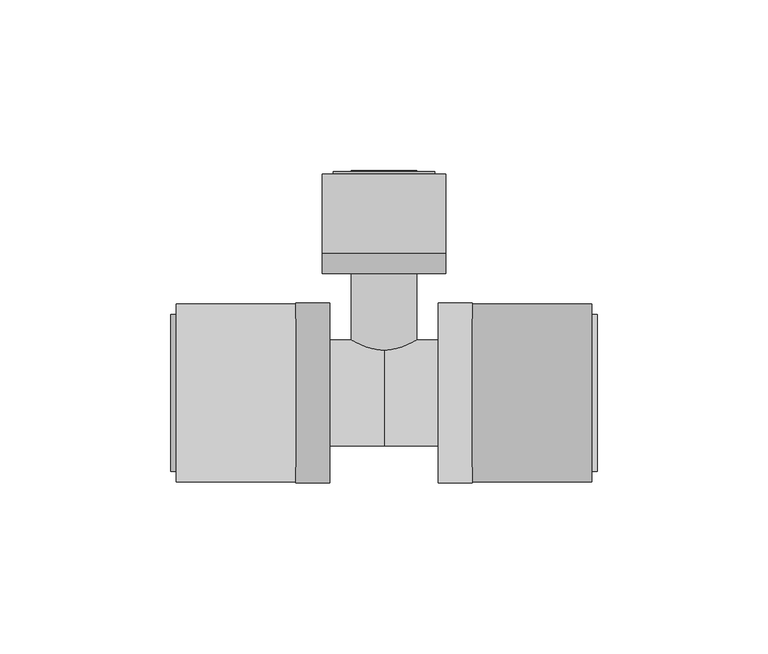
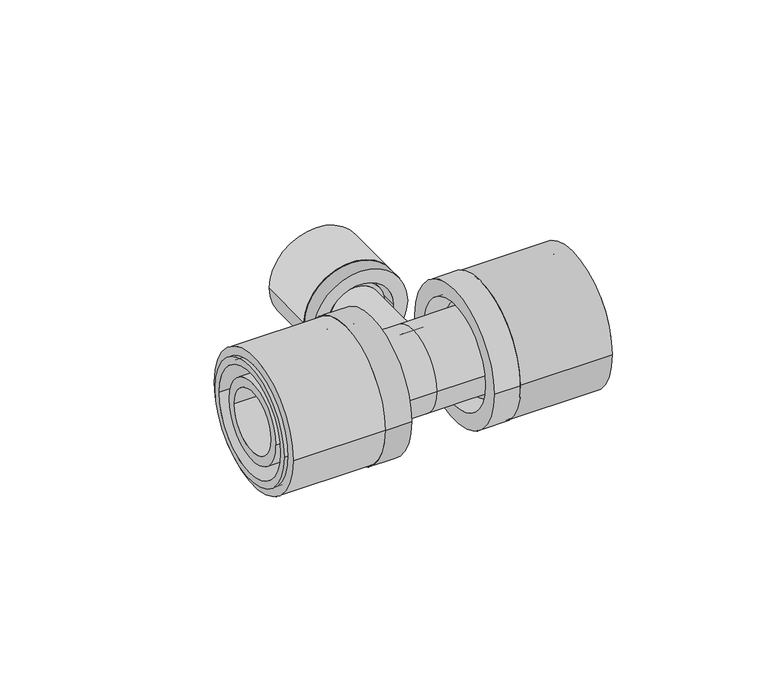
"""IFC4 building model written with IfcOpenShell, lengths in millimetres: pipe fitting geometry, FASTLOC_T-piece_LX : FSL T-Piece LX CZ."""

from ifc_helpers import new_model, si_unit, point, frame, origin, origin_2d, place, context, project, spatial, polyline, circle_curve, trimmed, segment, composite_curve, outline, extrude, source, transform, mapped, element, save
from ifc_brep_helpers import plane_surface, cylinder_surface, revolved_surface, advanced_brep


def pipe_fitting_15165f03(model_context):
    return source(origin(), model_context, "Body", "SolidModel", [
        extrude(outline(composite_curve([segment(trimmed(circle_curve(origin_2d(), 26.0), [point((-26.0, 0.0))], [point((26.0, 0.0))], False, "CARTESIAN"), True, "CONTINUOUS"), segment(trimmed(circle_curve(origin_2d(), 26.0), [point((26.0, 0.0))], [point((-26.0, 0.0))], False, "CARTESIAN"), True, "CONTINUOUS")], self_intersect=False), holes=[composite_curve([segment(trimmed(circle_curve(origin_2d(), 21.25), [point((-21.25, 0.0))], [point((21.25, 0.0))], True, "CARTESIAN"), True, "CONTINUOUS"), segment(trimmed(circle_curve(origin_2d(), 21.25), [point((21.25, 0.0))], [point((-21.25, 0.0))], True, "CARTESIAN"), True, "CONTINUOUS")], self_intersect=False)]), frame((25.8, 0.0, 0.0), z_axis=(1.0, 0.0, 0.0), x_axis=(0.0, 1.0, 0.0)), (0.0, 0.0, 1.0), 35.0),
        advanced_brep(
        [(25.8, 26.3, 0.0), (25.8, -26.3, 0.0), (15.8, -26.3, 0.0), (15.8, 26.3, 0.0), (62.3, 22.9, 0.0), (62.3, -22.9, 0.0), (25.8, -22.9, 0.0), (25.8, 22.9, 0.0), (15.8, 20.2, 0.0), (15.8, -20.2, 0.0), (62.3, -20.2, 0.0), (62.3, 20.2, 0.0)],
        [
            (0, 1, circle_curve(frame((25.8, 0.0, 0.0), z_axis=(-1.0, 0.0, 0.0), x_axis=(0.0, -1.0, 0.0)), 26.3)),
            (1, 2),
            (2, 3, circle_curve(frame((15.8, 0.0, 0.0), z_axis=(1.0, 0.0, 0.0), x_axis=(0.0, -1.0, 0.0)), 26.3)),
            (3, 0),
            (4, 5, circle_curve(frame((62.3, 0.0, 0.0), z_axis=(-1.0, 0.0, 0.0), x_axis=(0.0, -1.0, 0.0)), 22.9)),
            (5, 6),
            (6, 7, circle_curve(frame((25.8, 0.0, 0.0), z_axis=(1.0, 0.0, 0.0), x_axis=(0.0, -1.0, 0.0)), 22.9)),
            (7, 4),
            (8, 9, circle_curve(frame((15.8, 0.0, 0.0), z_axis=(-1.0, 0.0, 0.0), x_axis=(0.0, -1.0, 0.0)), 20.2)),
            (9, 10),
            (10, 11, circle_curve(frame((62.3, 0.0, 0.0), z_axis=(1.0, 0.0, 0.0), x_axis=(0.0, -1.0, 0.0)), 20.2)),
            (11, 8),
            (1, 0, circle_curve(frame((25.8, 0.0, 0.0), z_axis=(-1.0, 0.0, 0.0), x_axis=(0.0, 1.0, 0.0)), 26.3)),
            (3, 2, circle_curve(frame((15.8, 0.0, 0.0), z_axis=(1.0, 0.0, 0.0), x_axis=(0.0, 1.0, 0.0)), 26.3)),
            (6, 7, circle_curve(frame((25.8, 0.0, 0.0), z_axis=(-1.0, 0.0, 0.0), x_axis=(0.0, 1.0, 0.0)), 22.9)),
            (5, 4, circle_curve(frame((62.3, 0.0, 0.0), z_axis=(-1.0, 0.0, 0.0), x_axis=(0.0, 1.0, 0.0)), 22.9)),
            (10, 11, circle_curve(frame((62.3, 0.0, 0.0), z_axis=(-1.0, 0.0, 0.0), x_axis=(0.0, 1.0, 0.0)), 20.2)),
            (9, 8, circle_curve(frame((15.8, 0.0, 0.0), z_axis=(-1.0, 0.0, 0.0), x_axis=(0.0, 1.0, 0.0)), 20.2)),
        ],
        [
            cylinder_surface(frame((15.8, 0.0, 0.0), z_axis=(1.0, 0.0, 0.0), x_axis=(0.0, -1.0, 0.0)), 26.3),
            cylinder_surface(frame((15.8, 0.0, 0.0), z_axis=(1.0, 0.0, 0.0), x_axis=(0.0, -1.0, 0.0)), 22.9),
            revolved_surface(polyline([(62.3, -20.2, 0.0), (15.8, -20.2, 0.0)]), (15.8, 0.0, 0.0), (1.0, 0.0, 0.0)),
            cylinder_surface(frame((15.8, 0.0, 0.0), z_axis=(1.0, 0.0, 0.0), x_axis=(0.0, 1.0, 0.0)), 26.3),
            plane_surface(frame((25.8, 0.0, 0.0), z_axis=(1.0, 0.0, 0.0), x_axis=(0.0, 1.0, 0.0))),
            cylinder_surface(frame((15.8, 0.0, 0.0), z_axis=(1.0, 0.0, 0.0), x_axis=(0.0, 1.0, 0.0)), 22.9),
            plane_surface(frame((62.3, 0.0, 0.0), z_axis=(1.0, 0.0, 0.0), x_axis=(0.0, 1.0, 0.0))),
            revolved_surface(polyline([(62.3, 20.2, 0.0), (15.8, 20.2, 0.0)]), (15.8, 0.0, 0.0), (1.0, 0.0, 0.0)),
            plane_surface(frame((15.8, 0.0, 0.0), z_axis=(-1.0, 0.0, 0.0), x_axis=(0.0, 1.0, 0.0))),
        ],
        [
            (0, [[1, 2, 3, 4]]),
            (1, [[5, 6, 7, 8]]),
            (2, [[9, 10, 11, 12]]),
            (3, [[13, -4, 14, -2]]),
            (4, [[-13, -1], [15, -7]]),
            (5, [[16, -8, -15, -6]]),
            (6, [[-16, -5], [17, -11]]),
            (7, [[18, -12, -17, -10]]),
            (8, [[-14, -3], [-18, -9]]),
        ],
    ),
        extrude(outline(composite_curve([segment(trimmed(circle_curve(origin_2d(), 26.0), [point((26.0, 0.0))], [point((-26.0, 0.0))], False, "CARTESIAN"), True, "CONTINUOUS"), segment(trimmed(circle_curve(origin_2d(), 26.0), [point((-26.0, 0.0))], [point((26.0, 0.0))], False, "CARTESIAN"), True, "CONTINUOUS")], self_intersect=False), holes=[composite_curve([segment(trimmed(circle_curve(origin_2d(), 21.25), [point((21.25, 0.0))], [point((-21.25, 0.0))], True, "CARTESIAN"), True, "CONTINUOUS"), segment(trimmed(circle_curve(origin_2d(), 21.25), [point((-21.25, 0.0))], [point((21.25, 0.0))], True, "CARTESIAN"), True, "CONTINUOUS")], self_intersect=False)]), frame((-60.8, 0.0, 0.0), z_axis=(1.0, 0.0, 0.0), x_axis=(0.0, 1.0, 0.0)), (0.0, 0.0, 1.0), 35.0),
        advanced_brep(
        [(-25.8, -26.3, 0.0), (-25.8, 26.3, 0.0), (-15.8, 26.3, 0.0), (-15.8, -26.3, 0.0), (-62.3, -22.9, 0.0), (-62.3, 22.9, 0.0), (-25.8, 22.9, 0.0), (-25.8, -22.9, 0.0), (-15.8, -20.2, 0.0), (-15.8, 20.2, 0.0), (-62.3, 20.2, 0.0), (-62.3, -20.2, 0.0)],
        [
            (0, 1, circle_curve(frame((-25.8, 0.0, 0.0), z_axis=(1.0, 0.0, 0.0), x_axis=(0.0, 1.0, 0.0)), 26.3)),
            (1, 2),
            (2, 3, circle_curve(frame((-15.8, 0.0, 0.0), z_axis=(-1.0, 0.0, 0.0), x_axis=(0.0, 1.0, 0.0)), 26.3)),
            (3, 0),
            (4, 5, circle_curve(frame((-62.3, 0.0, 0.0), z_axis=(1.0, 0.0, 0.0), x_axis=(0.0, 1.0, 0.0)), 22.9)),
            (5, 6),
            (6, 7, circle_curve(frame((-25.8, 0.0, 0.0), z_axis=(-1.0, 0.0, 0.0), x_axis=(0.0, 1.0, 0.0)), 22.9)),
            (7, 4),
            (8, 9, circle_curve(frame((-15.8, 0.0, 0.0), z_axis=(1.0, 0.0, 0.0), x_axis=(0.0, 1.0, 0.0)), 20.2)),
            (9, 10),
            (10, 11, circle_curve(frame((-62.3, 0.0, 0.0), z_axis=(-1.0, 0.0, 0.0), x_axis=(0.0, 1.0, 0.0)), 20.2)),
            (11, 8),
            (1, 0, circle_curve(frame((-25.8, 0.0, 0.0), z_axis=(1.0, 0.0, 0.0), x_axis=(0.0, -1.0, 0.0)), 26.3)),
            (3, 2, circle_curve(frame((-15.8, 0.0, 0.0), z_axis=(-1.0, 0.0, 0.0), x_axis=(0.0, -1.0, 0.0)), 26.3)),
            (6, 7, circle_curve(frame((-25.8, 0.0, 0.0), z_axis=(1.0, 0.0, 0.0), x_axis=(0.0, -1.0, 0.0)), 22.9)),
            (5, 4, circle_curve(frame((-62.3, 0.0, 0.0), z_axis=(1.0, 0.0, 0.0), x_axis=(0.0, -1.0, 0.0)), 22.9)),
            (10, 11, circle_curve(frame((-62.3, 0.0, 0.0), z_axis=(1.0, 0.0, 0.0), x_axis=(0.0, -1.0, 0.0)), 20.2)),
            (9, 8, circle_curve(frame((-15.8, 0.0, 0.0), z_axis=(1.0, 0.0, 0.0), x_axis=(0.0, -1.0, 0.0)), 20.2)),
        ],
        [
            cylinder_surface(frame((-15.8, 0.0, 0.0), z_axis=(-1.0, 0.0, 0.0), x_axis=(0.0, 1.0, 0.0)), 26.3),
            cylinder_surface(frame((-15.8, 0.0, 0.0), z_axis=(-1.0, 0.0, 0.0), x_axis=(0.0, 1.0, 0.0)), 22.9),
            revolved_surface(polyline([(-62.3, 20.2, 0.0), (-15.8, 20.2, 0.0)]), (-15.8, 0.0, 0.0), (-1.0, 0.0, 0.0)),
            cylinder_surface(frame((-15.8, 0.0, 0.0), z_axis=(-1.0, 0.0, 0.0), x_axis=(0.0, -1.0, 0.0)), 26.3),
            plane_surface(frame((-25.8, 0.0, 0.0), z_axis=(-1.0, 0.0, 0.0), x_axis=(0.0, -1.0, 0.0))),
            cylinder_surface(frame((-15.8, 0.0, 0.0), z_axis=(-1.0, 0.0, 0.0), x_axis=(0.0, -1.0, 0.0)), 22.9),
            plane_surface(frame((-62.3, 0.0, 0.0), z_axis=(-1.0, 0.0, 0.0), x_axis=(0.0, -1.0, 0.0))),
            revolved_surface(polyline([(-62.3, -20.2, 0.0), (-15.8, -20.2, 0.0)]), (-15.8, 0.0, 0.0), (-1.0, 0.0, 0.0)),
            plane_surface(frame((-15.8, 0.0, 0.0), z_axis=(1.0, 0.0, 0.0), x_axis=(0.0, -1.0, 0.0))),
        ],
        [
            (0, [[1, 2, 3, 4]]),
            (1, [[5, 6, 7, 8]]),
            (2, [[9, 10, 11, 12]]),
            (3, [[13, -4, 14, -2]]),
            (4, [[-13, -1], [15, -7]]),
            (5, [[16, -8, -15, -6]]),
            (6, [[-16, -5], [17, -11]]),
            (7, [[18, -12, -17, -10]]),
            (8, [[-14, -3], [-18, -9]]),
        ],
    ),
        extrude(outline(composite_curve([segment(trimmed(circle_curve(origin_2d(), 18.0), [point((0.0, 18.0))], [point((0.0, -18.0))], False, "CARTESIAN"), True, "CONTINUOUS"), segment(trimmed(circle_curve(origin_2d(), 18.0), [point((0.0, -18.0))], [point((0.0, 18.0))], False, "CARTESIAN"), True, "CONTINUOUS")], self_intersect=False), holes=[composite_curve([segment(trimmed(circle_curve(origin_2d(), 13.5), [point((0.0, 13.5))], [point((0.0, -13.5))], True, "CARTESIAN"), True, "CONTINUOUS"), segment(trimmed(circle_curve(origin_2d(), 13.5), [point((0.0, -13.5))], [point((0.0, 13.5))], True, "CARTESIAN"), True, "CONTINUOUS")], self_intersect=False)]), frame((0.0, 41.0, 0.0), z_axis=(0.0, 1.0, 0.0), x_axis=(0.0, 0.0, 1.0)), (0.0, 0.0, 1.0), 23.0),
        advanced_brep(
        [(-18.0, 41.0, 0.0), (18.0, 41.0, 0.0), (18.0, 35.0, 0.0), (-18.0, 35.0, 0.0), (-14.85, 64.8, 0.0), (14.85, 64.8, 0.0), (14.85, 41.0, 0.0), (-14.85, 41.0, 0.0), (-12.65, 35.0, 0.0), (12.65, 35.0, 0.0), (12.65, 64.8, 0.0), (-12.65, 64.8, 0.0)],
        [
            (0, 1, circle_curve(frame((0.0, 41.0, 0.0), z_axis=(0.0, -1.0, 0.0), x_axis=(1.0, 0.0, 0.0)), 18.0)),
            (1, 2),
            (2, 3, circle_curve(frame((0.0, 35.0, 0.0), z_axis=(0.0, 1.0, 0.0), x_axis=(1.0, 0.0, 0.0)), 18.0)),
            (3, 0),
            (4, 5, circle_curve(frame((0.0, 64.8, 0.0), z_axis=(0.0, -1.0, 0.0), x_axis=(1.0, 0.0, 0.0)), 14.85)),
            (5, 6),
            (6, 7, circle_curve(frame((0.0, 41.0, 0.0), z_axis=(0.0, 1.0, 0.0), x_axis=(1.0, 0.0, 0.0)), 14.85)),
            (7, 4),
            (8, 9, circle_curve(frame((0.0, 35.0, 0.0), z_axis=(0.0, -1.0, 0.0), x_axis=(1.0, 0.0, 0.0)), 12.65)),
            (9, 10),
            (10, 11, circle_curve(frame((0.0, 64.8, 0.0), z_axis=(0.0, 1.0, 0.0), x_axis=(1.0, 0.0, 0.0)), 12.65)),
            (11, 8),
            (1, 0, circle_curve(frame((0.0, 41.0, 0.0), z_axis=(0.0, -1.0, 0.0), x_axis=(-1.0, 0.0, 0.0)), 18.0)),
            (3, 2, circle_curve(frame((0.0, 35.0, 0.0), z_axis=(0.0, 1.0, 0.0), x_axis=(-1.0, 0.0, 0.0)), 18.0)),
            (6, 7, circle_curve(frame((0.0, 41.0, 0.0), z_axis=(0.0, -1.0, 0.0), x_axis=(-1.0, 0.0, 0.0)), 14.85)),
            (5, 4, circle_curve(frame((0.0, 64.8, 0.0), z_axis=(0.0, -1.0, 0.0), x_axis=(-1.0, 0.0, 0.0)), 14.85)),
            (10, 11, circle_curve(frame((0.0, 64.8, 0.0), z_axis=(0.0, -1.0, 0.0), x_axis=(-1.0, 0.0, 0.0)), 12.65)),
            (9, 8, circle_curve(frame((0.0, 35.0, 0.0), z_axis=(0.0, -1.0, 0.0), x_axis=(-1.0, 0.0, 0.0)), 12.65)),
        ],
        [
            cylinder_surface(frame((0.0, 35.0, 0.0), z_axis=(0.0, 1.0, 0.0), x_axis=(1.0, 0.0, 0.0)), 18.0),
            cylinder_surface(frame((0.0, 35.0, 0.0), z_axis=(0.0, 1.0, 0.0), x_axis=(1.0, 0.0, 0.0)), 14.85),
            revolved_surface(polyline([(12.65, 64.8, 0.0), (12.65, 35.0, 0.0)]), (0.0, 35.0, 0.0), (0.0, 1.0, 0.0)),
            cylinder_surface(frame((0.0, 35.0, 0.0), z_axis=(0.0, 1.0, 0.0), x_axis=(-1.0, 0.0, 0.0)), 18.0),
            plane_surface(frame((0.0, 41.0, 0.0), z_axis=(0.0, 1.0, 0.0), x_axis=(-1.0, 0.0, 0.0))),
            cylinder_surface(frame((0.0, 35.0, 0.0), z_axis=(0.0, 1.0, 0.0), x_axis=(-1.0, 0.0, 0.0)), 14.85),
            plane_surface(frame((0.0, 64.8, 0.0), z_axis=(0.0, 1.0, 0.0), x_axis=(-1.0, 0.0, 0.0))),
            revolved_surface(polyline([(-12.65, 64.8, 0.0), (-12.65, 35.0, 0.0)]), (0.0, 35.0, 0.0), (0.0, 1.0, 0.0)),
            plane_surface(frame((0.0, 35.0, 0.0), z_axis=(0.0, -1.0, 0.0), x_axis=(-1.0, 0.0, 0.0))),
        ],
        [
            (0, [[1, 2, 3, 4]]),
            (1, [[5, 6, 7, 8]]),
            (2, [[9, 10, 11, 12]]),
            (3, [[13, -4, 14, -2]]),
            (4, [[-13, -1], [15, -7]]),
            (5, [[16, -8, -15, -6]]),
            (6, [[-16, -5], [17, -11]]),
            (7, [[18, -12, -17, -10]]),
            (8, [[-14, -3], [-18, -9]]),
        ],
    ),
        advanced_brep(
        [(0.0, 15.5, 0.0), (0.0, -15.5, 0.0), (-22.1, -15.5, 0.0), (-22.1, 15.5, 0.0), (22.1, 15.5, 0.0), (22.1, -15.5, 0.0), (25.8, 17.2, 0.0), (25.8, -17.2, 0.0), (22.1, -17.2, 0.0), (22.1, 17.2, 0.0), (61.3, 15.5, 0.0), (61.3, -15.5, 0.0), (25.8, -15.5, 0.0), (25.8, 15.5, 0.0), (-25.8, 15.5, 0.0), (-25.8, -15.5, 0.0), (-61.3, -15.5, 0.0), (-61.3, 15.5, 0.0), (-22.1, 17.2, 0.0), (-22.1, -17.2, 0.0), (-25.8, -17.2, 0.0), (-25.8, 17.2, 0.0), (61.3, -11.95, 0.0), (61.3, 11.95, 0.0), (-61.3, 11.95, 0.0), (-61.3, -11.95, 0.0), (0.0, 11.95, 0.0), (0.0, -11.95, 0.0)],
        [
            (0, 1, circle_curve(frame((0.0, 0.0, 0.0), z_axis=(-1.0, 0.0, 0.0), x_axis=(0.0, -1.0, 0.0)), 15.5)),
            (1, 2),
            (2, 3, circle_curve(frame((-22.1, 0.0, 0.0), z_axis=(1.0, 0.0, 0.0), x_axis=(0.0, -1.0, 0.0)), 15.5)),
            (3, 0),
            (4, 5, circle_curve(frame((22.1, 0.0, 0.0), z_axis=(-1.0, 0.0, 0.0), x_axis=(0.0, -1.0, 0.0)), 15.5)),
            (5, 1),
            (0, 4),
            (6, 7, circle_curve(frame((25.8, 0.0, 0.0), z_axis=(-1.0, 0.0, 0.0), x_axis=(0.0, -1.0, 0.0)), 17.2)),
            (7, 8),
            (8, 9, circle_curve(frame((22.1, 0.0, 0.0), z_axis=(1.0, 0.0, 0.0), x_axis=(0.0, -1.0, 0.0)), 17.2)),
            (9, 6),
            (10, 11, circle_curve(frame((61.3, 0.0, 0.0), z_axis=(-1.0, 0.0, 0.0), x_axis=(0.0, -1.0, 0.0)), 15.5)),
            (11, 12),
            (12, 13, circle_curve(frame((25.8, 0.0, 0.0), z_axis=(1.0, 0.0, 0.0), x_axis=(0.0, -1.0, 0.0)), 15.5)),
            (13, 10),
            (14, 15, circle_curve(frame((-25.8, 0.0, 0.0), z_axis=(-1.0, 0.0, 0.0), x_axis=(0.0, -1.0, 0.0)), 15.5)),
            (15, 16),
            (16, 17, circle_curve(frame((-61.3, 0.0, 0.0), z_axis=(1.0, 0.0, 0.0), x_axis=(0.0, -1.0, 0.0)), 15.5)),
            (17, 14),
            (18, 19, circle_curve(frame((-22.1, 0.0, 0.0), z_axis=(-1.0, 0.0, 0.0), x_axis=(0.0, -1.0, 0.0)), 17.2)),
            (19, 20),
            (20, 21, circle_curve(frame((-25.8, 0.0, 0.0), z_axis=(1.0, 0.0, 0.0), x_axis=(0.0, -1.0, 0.0)), 17.2)),
            (21, 18),
            (18, 19, circle_curve(frame((-22.1, 0.0, 0.0), z_axis=(1.0, 0.0, 0.0), x_axis=(0.0, 1.0, 0.0)), 17.2)),
            (2, 3, circle_curve(frame((-22.1, 0.0, 0.0), z_axis=(-1.0, 0.0, 0.0), x_axis=(0.0, 1.0, 0.0)), 15.5)),
            (1, 0, circle_curve(frame((0.0, 0.0, 0.0), z_axis=(-1.0, 0.0, 0.0), x_axis=(0.0, 1.0, 0.0)), 15.5)),
            (5, 4, circle_curve(frame((22.1, 0.0, 0.0), z_axis=(-1.0, 0.0, 0.0), x_axis=(0.0, 1.0, 0.0)), 15.5)),
            (8, 9, circle_curve(frame((22.1, 0.0, 0.0), z_axis=(-1.0, 0.0, 0.0), x_axis=(0.0, 1.0, 0.0)), 17.2)),
            (7, 6, circle_curve(frame((25.8, 0.0, 0.0), z_axis=(-1.0, 0.0, 0.0), x_axis=(0.0, 1.0, 0.0)), 17.2)),
            (12, 13, circle_curve(frame((25.8, 0.0, 0.0), z_axis=(-1.0, 0.0, 0.0), x_axis=(0.0, 1.0, 0.0)), 15.5)),
            (11, 10, circle_curve(frame((61.3, 0.0, 0.0), z_axis=(-1.0, 0.0, 0.0), x_axis=(0.0, 1.0, 0.0)), 15.5)),
            (22, 23, circle_curve(frame((61.3, 0.0, 0.0), z_axis=(-1.0, 0.0, 0.0), x_axis=(0.0, 1.0, 0.0)), 11.95)),
            (23, 22, circle_curve(frame((61.3, 0.0, 0.0), z_axis=(-1.0, 0.0, 0.0), x_axis=(0.0, -1.0, 0.0)), 11.95)),
            (16, 17, circle_curve(frame((-61.3, 0.0, 0.0), z_axis=(-1.0, 0.0, 0.0), x_axis=(0.0, 1.0, 0.0)), 15.5)),
            (24, 25, circle_curve(frame((-61.3, 0.0, 0.0), z_axis=(1.0, 0.0, 0.0), x_axis=(0.0, 1.0, 0.0)), 11.95)),
            (25, 24, circle_curve(frame((-61.3, 0.0, 0.0), z_axis=(1.0, 0.0, 0.0), x_axis=(0.0, -1.0, 0.0)), 11.95)),
            (15, 14, circle_curve(frame((-25.8, 0.0, 0.0), z_axis=(-1.0, 0.0, 0.0), x_axis=(0.0, 1.0, 0.0)), 15.5)),
            (20, 21, circle_curve(frame((-25.8, 0.0, 0.0), z_axis=(-1.0, 0.0, 0.0), x_axis=(0.0, 1.0, 0.0)), 17.2)),
            (26, 27, circle_curve(frame((0.0, 0.0, 0.0), z_axis=(-1.0, 0.0, 0.0), x_axis=(0.0, -1.0, 0.0)), 11.95)),
            (27, 22),
            (23, 26),
            (25, 27),
            (26, 24),
            (27, 26, circle_curve(frame((0.0, 0.0, 0.0), z_axis=(-1.0, 0.0, 0.0), x_axis=(0.0, 1.0, 0.0)), 11.95)),
        ],
        [
            cylinder_surface(frame((0.0, 0.0, 0.0), z_axis=(1.0, 0.0, 0.0), x_axis=(0.0, -1.0, 0.0)), 15.5),
            cylinder_surface(frame((0.0, 0.0, 0.0), z_axis=(1.0, 0.0, 0.0), x_axis=(0.0, -1.0, 0.0)), 17.2),
            plane_surface(frame((-22.1, 0.0, 0.0), z_axis=(1.0, 0.0, 0.0), x_axis=(0.0, 1.0, 0.0))),
            cylinder_surface(frame((0.0, 0.0, 0.0), z_axis=(1.0, 0.0, 0.0), x_axis=(0.0, 1.0, 0.0)), 15.5),
            plane_surface(frame((22.1, 0.0, 0.0), z_axis=(-1.0, 0.0, 0.0), x_axis=(0.0, 1.0, 0.0))),
            cylinder_surface(frame((0.0, 0.0, 0.0), z_axis=(1.0, 0.0, 0.0), x_axis=(0.0, 1.0, 0.0)), 17.2),
            plane_surface(frame((25.8, 0.0, 0.0), z_axis=(1.0, 0.0, 0.0), x_axis=(0.0, 1.0, 0.0))),
            plane_surface(frame((61.3, 0.0, 0.0), z_axis=(1.0, 0.0, 0.0), x_axis=(0.0, 1.0, 0.0))),
            plane_surface(frame((-61.3, 0.0, 0.0), z_axis=(-1.0, 0.0, 0.0), x_axis=(0.0, 1.0, 0.0))),
            plane_surface(frame((-25.8, 0.0, 0.0), z_axis=(-1.0, 0.0, 0.0), x_axis=(0.0, 1.0, 0.0))),
            revolved_surface(polyline([(61.3, -11.95, 0.0), (0.0, -11.95, 0.0)]), (0.0, 0.0, 0.0), (1.0, 0.0, 0.0)),
            revolved_surface(polyline([(0.0, -11.95, 0.0), (-61.3, -11.95, 0.0)]), (0.0, 0.0, 0.0), (1.0, 0.0, 0.0)),
            revolved_surface(polyline([(61.3, 11.95, 0.0), (0.0, 11.95, 0.0)]), (0.0, 0.0, 0.0), (1.0, 0.0, 0.0)),
            revolved_surface(polyline([(0.0, 11.95, 0.0), (-61.3, 11.95, 0.0)]), (0.0, 0.0, 0.0), (1.0, 0.0, 0.0)),
        ],
        [
            (0, [[1, 2, 3, 4]]),
            (0, [[5, 6, -1, 7]]),
            (1, [[8, 9, 10, 11]]),
            (0, [[12, 13, 14, 15]]),
            (0, [[16, 17, 18, 19]]),
            (1, [[20, 21, 22, 23]]),
            (2, [[24, -20], [25, -3]]),
            (3, [[26, -4, -25, -2]]),
            (3, [[27, -7, -26, -6]]),
            (4, [[28, -10], [-27, -5]]),
            (5, [[29, -11, -28, -9]]),
            (6, [[-29, -8], [30, -14]]),
            (3, [[31, -15, -30, -13]]),
            (7, [[-31, -12], [32, 33]]),
            (8, [[34, -18], [35, 36]]),
            (3, [[37, -19, -34, -17]]),
            (9, [[38, -22], [-37, -16]]),
            (5, [[-24, -23, -38, -21]]),
            (10, [[39, 40, -33, 41]]),
            (11, [[-36, 42, -39, 43]]),
            (12, [[44, -41, -32, -40]]),
            (13, [[-35, -43, -44, -42]]),
        ],
    ),
        advanced_brep(
        [(7.35, 65.0, 0.0), (-7.35, 65.0, 0.0), (-7.35, 0.0, 0.0), (7.35, 0.0, 0.0), (9.6, 0.0, 0.0), (-9.6, 0.0, 0.0), (-9.6, 38.2, 0.0), (9.6, 38.2, 0.0), (11.1, 38.2, 0.0), (-11.1, 38.2, 0.0), (-11.1, 41.0, 0.0), (11.1, 41.0, 0.0), (9.6, 41.0, 0.0), (-9.6, 41.0, 0.0), (-9.6, 65.0, 0.0), (9.6, 65.0, 0.0)],
        [
            (0, 1, circle_curve(frame((0.0, 65.0, 0.0), z_axis=(0.0, 1.0, 0.0), x_axis=(-1.0, 0.0, 0.0)), 7.35)),
            (1, 2),
            (2, 3, circle_curve(frame((0.0, 0.0, 0.0), z_axis=(0.0, -1.0, 0.0), x_axis=(-1.0, 0.0, 0.0)), 7.35)),
            (3, 0),
            (4, 5, circle_curve(frame((0.0, 0.0, 0.0), z_axis=(0.0, 1.0, 0.0), x_axis=(-1.0, 0.0, 0.0)), 9.6)),
            (5, 6),
            (6, 7, circle_curve(frame((0.0, 38.2, 0.0), z_axis=(0.0, -1.0, 0.0), x_axis=(-1.0, 0.0, 0.0)), 9.6)),
            (7, 4),
            (8, 9, circle_curve(frame((0.0, 38.2, 0.0), z_axis=(0.0, 1.0, 0.0), x_axis=(-1.0, 0.0, 0.0)), 11.1)),
            (9, 10),
            (10, 11, circle_curve(frame((0.0, 41.0, 0.0), z_axis=(0.0, -1.0, 0.0), x_axis=(-1.0, 0.0, 0.0)), 11.1)),
            (11, 8),
            (12, 13, circle_curve(frame((0.0, 41.0, 0.0), z_axis=(0.0, 1.0, 0.0), x_axis=(-1.0, 0.0, 0.0)), 9.6)),
            (13, 14),
            (14, 15, circle_curve(frame((0.0, 65.0, 0.0), z_axis=(0.0, -1.0, 0.0), x_axis=(-1.0, 0.0, 0.0)), 9.6)),
            (15, 12),
            (1, 0, circle_curve(frame((0.0, 65.0, 0.0), z_axis=(0.0, 1.0, 0.0), x_axis=(1.0, 0.0, 0.0)), 7.35)),
            (3, 2, circle_curve(frame((0.0, 0.0, 0.0), z_axis=(0.0, -1.0, 0.0), x_axis=(1.0, 0.0, 0.0)), 7.35)),
            (4, 5, circle_curve(frame((0.0, 0.0, 0.0), z_axis=(0.0, -1.0, 0.0), x_axis=(1.0, 0.0, 0.0)), 9.6)),
            (7, 6, circle_curve(frame((0.0, 38.2, 0.0), z_axis=(0.0, -1.0, 0.0), x_axis=(1.0, 0.0, 0.0)), 9.6)),
            (8, 9, circle_curve(frame((0.0, 38.2, 0.0), z_axis=(0.0, -1.0, 0.0), x_axis=(1.0, 0.0, 0.0)), 11.1)),
            (11, 10, circle_curve(frame((0.0, 41.0, 0.0), z_axis=(0.0, -1.0, 0.0), x_axis=(1.0, 0.0, 0.0)), 11.1)),
            (12, 13, circle_curve(frame((0.0, 41.0, 0.0), z_axis=(0.0, -1.0, 0.0), x_axis=(1.0, 0.0, 0.0)), 9.6)),
            (15, 14, circle_curve(frame((0.0, 65.0, 0.0), z_axis=(0.0, -1.0, 0.0), x_axis=(1.0, 0.0, 0.0)), 9.6)),
        ],
        [
            revolved_surface(polyline([(-7.35, 0.0, 0.0), (-7.35, 65.0, 0.0)]), (0.0, 0.0, 0.0), (0.0, -1.0, 0.0)),
            cylinder_surface(frame((0.0, 0.0, 0.0), z_axis=(0.0, -1.0, 0.0), x_axis=(-1.0, 0.0, 0.0)), 9.6),
            cylinder_surface(frame((0.0, 0.0, 0.0), z_axis=(0.0, -1.0, 0.0), x_axis=(-1.0, 0.0, 0.0)), 11.1),
            revolved_surface(polyline([(7.35, 0.0, 0.0), (7.35, 65.0, 0.0)]), (0.0, 0.0, 0.0), (0.0, -1.0, 0.0)),
            plane_surface(frame((0.0, 0.0, 0.0), z_axis=(0.0, -1.0, 0.0), x_axis=(1.0, 0.0, 0.0))),
            cylinder_surface(frame((0.0, 0.0, 0.0), z_axis=(0.0, -1.0, 0.0), x_axis=(1.0, 0.0, 0.0)), 9.6),
            plane_surface(frame((0.0, 38.2, 0.0), z_axis=(0.0, -1.0, 0.0), x_axis=(1.0, 0.0, 0.0))),
            cylinder_surface(frame((0.0, 0.0, 0.0), z_axis=(0.0, -1.0, 0.0), x_axis=(1.0, 0.0, 0.0)), 11.1),
            plane_surface(frame((0.0, 41.0, 0.0), z_axis=(0.0, 1.0, 0.0), x_axis=(1.0, 0.0, 0.0))),
            plane_surface(frame((0.0, 65.0, 0.0), z_axis=(0.0, 1.0, 0.0), x_axis=(1.0, 0.0, 0.0))),
        ],
        [
            (0, [[1, 2, 3, 4]]),
            (1, [[5, 6, 7, 8]]),
            (2, [[9, 10, 11, 12]]),
            (1, [[13, 14, 15, 16]]),
            (3, [[17, -4, 18, -2]]),
            (4, [[19, -5], [-18, -3]]),
            (5, [[-19, -8, 20, -6]]),
            (6, [[21, -9], [-20, -7]]),
            (7, [[-21, -12, 22, -10]]),
            (8, [[-22, -11], [23, -13]]),
            (5, [[-23, -16, 24, -14]]),
            (9, [[-24, -15], [-17, -1]]),
        ],
    ),
    ])


if __name__ == "__main__":
    model = new_model("IFC4")
    model_context = context("Model", 3, world=origin())
    ifc_project = project(units=[si_unit("LENGTHUNIT", "METRE", prefix="MILLI")], contexts=[model_context])
    site = spatial("IfcSite", under=ifc_project)
    building = spatial("IfcBuilding", under=site)
    placement = place(None, origin())
    pipe_fitting_shape = pipe_fitting_15165f03(model_context)
    element("IfcPipeFitting", 1, ObjectType="FASTLOC_T-piece_LX : FSL T-Piece LX CZ", at=placement, inside=building, context=model_context, shape_type="MappedRepresentation", body=[
        mapped(pipe_fitting_shape, transform((0.0, 0.0, 0.0), x_axis=(1.0, 0.0, 0.0), y_axis=(0.0, 1.0, 0.0), z_axis=(0.0, 0.0, 1.0))),
    ])
    save(model, "model.ifc")
